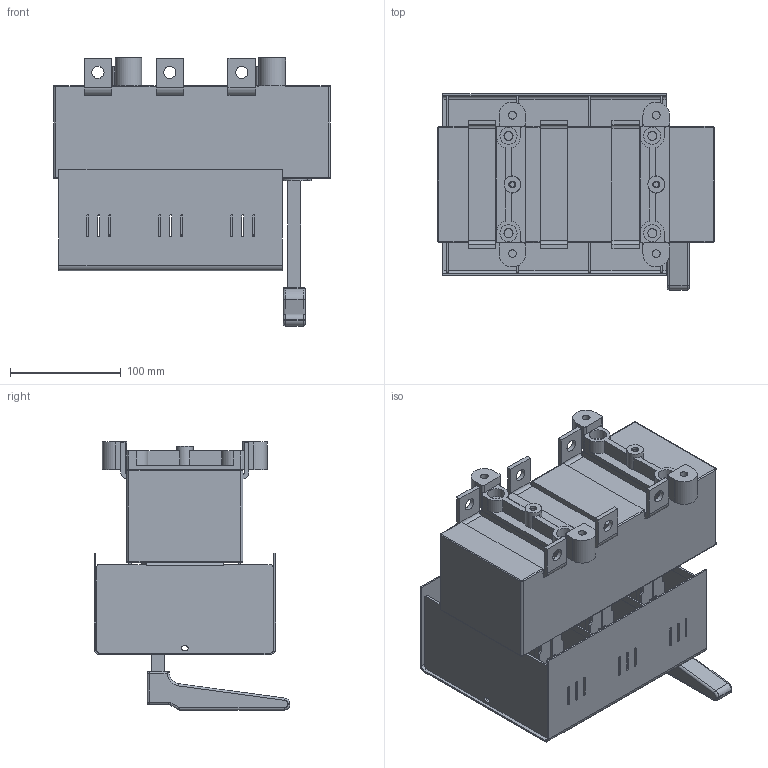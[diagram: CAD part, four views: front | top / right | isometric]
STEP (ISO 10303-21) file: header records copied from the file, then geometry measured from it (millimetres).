
FILE_DESCRIPTION(/* description */ (''),/* implementation_level */ '2;1');
FILE_NAME(/* name */ 'RAB 1 P3 C-R.stp',/* time_stamp */ '2021-08-19T13:02:03+02:00',/* author */ (''),/* organization */ (''),/* preprocessor_version */ 'ST-DEVELOPER v18.1',/* originating_system */ 'SIEMENS PLM Software NX 1965',/* authorisation */ '');
FILE_SCHEMA (('AUTOMOTIVE_DESIGN { 1 0 10303 214 3 1 1 1 }'));
Length unit declared in the file: millimetre
Products named in the file (1): RAB 1 P3 C-R_stp
Bounding box: 250 x 177 x 242.3 mm (x, y, z)
Volume: 2503188.6 mm3; surface area: 438740.1 mm2
Topology: 1 solids, 1 shells, 1060 faces, 2915 edges, 1884 vertices
Faces by surface type: plane 673, cylinder 365, torus 13, sphere 6, bspline 3
Full cylindrical faces by diameter (mm): 4.8 x2, 6.2 x2, 7 x4, 8.2 x4, 11 x6, 14 x4, 15 x2, 15.5 x4
Entity records: 33668 total; most frequent: CARTESIAN_POINT 5915, DIRECTION 5771, ORIENTED_EDGE 5754, EDGE_CURVE 2877, LINE 2083, VECTOR 2083, VERTEX_POINT 1880, AXIS2_PLACEMENT_3D 1844
